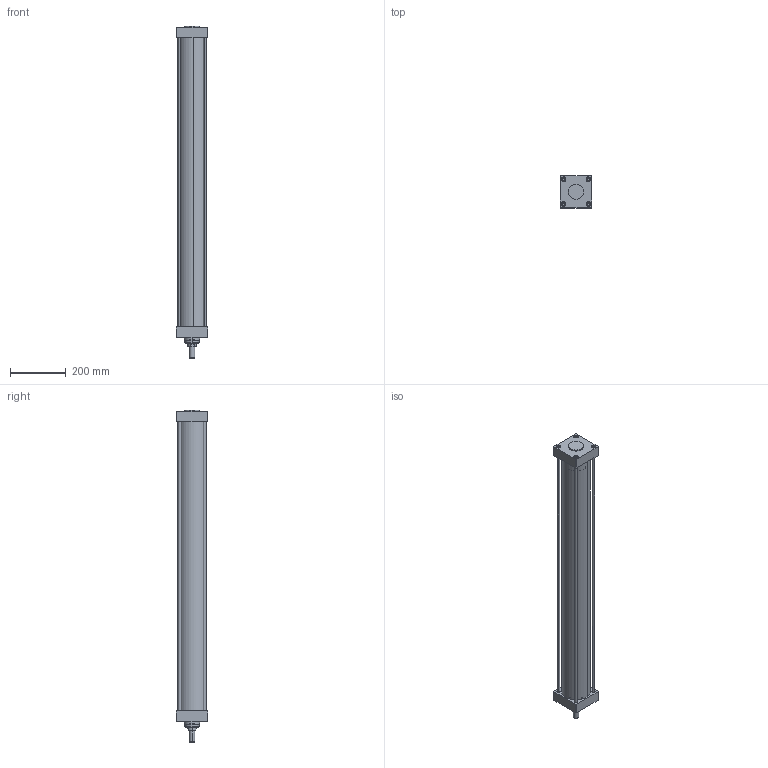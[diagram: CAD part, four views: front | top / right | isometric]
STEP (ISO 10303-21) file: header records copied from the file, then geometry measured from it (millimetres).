
FILE_DESCRIPTION (( 'STEP AP203' ), '1' );
FILE_NAME ('SC-CR-S-100X1000-CYLINDER.STEP', '2016-10-31T15:42:58', ( 'user' ), ( '' ), 'SwSTEP 2.0', 'SolidWorks 2013', '' );
FILE_SCHEMA (( 'CONFIG_CONTROL_DESIGN' ));
Length unit declared in the file: millimetre
Products named in the file (8): SC-CR-S 100 CIVATA; SC-CR-S 100 ARKA KAPAK ; SC-CR-S 100x1000 BORU; SC-CR-S 100 烰 KAPAK ; SC-CR-S 100x1000 Piston Mili; SC-CR-S 100x1000 SAPLAMA; SC-CR-S-100X1000-CYLINDER; SC-CR-S 100 ORTA PÝSTON 
Assembly tree (17 placements, depth 2):
  SC-CR-S-100X1000-CYLINDER
    SC-CR-S 100 ARKA KAPAK 
    SC-CR-S 100 烰 KAPAK 
    SC-CR-S 100 ORTA PÝSTON 
    SC-CR-S 100 CIVATA  x8
    SC-CR-S 100x1000 BORU
    SC-CR-S 100x1000 Piston Mili
    SC-CR-S 100x1000 SAPLAMA  x4
Bounding box: 114 x 114 x 1191.5 mm (x, y, z)
Volume: 3008172.4 mm3; surface area: 1092232.4 mm2
Topology: 19 solids, 19 shells, 463 faces, 953 edges, 566 vertices
Faces by surface type: cylinder 158, cone 145, plane 140, torus 20
Entity records: 9109 total; most frequent: CARTESIAN_POINT 1630, DIRECTION 1500, ORIENTED_EDGE 1192, AXIS2_PLACEMENT_3D 631, EDGE_CURVE 596, VERTEX_POINT 364, EDGE_LOOP 340, CIRCLE 334
